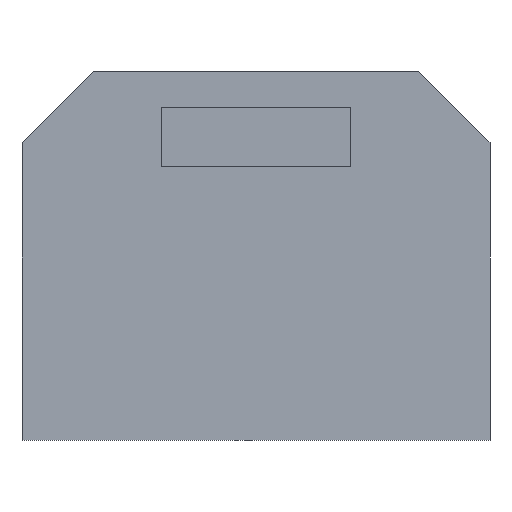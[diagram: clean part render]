
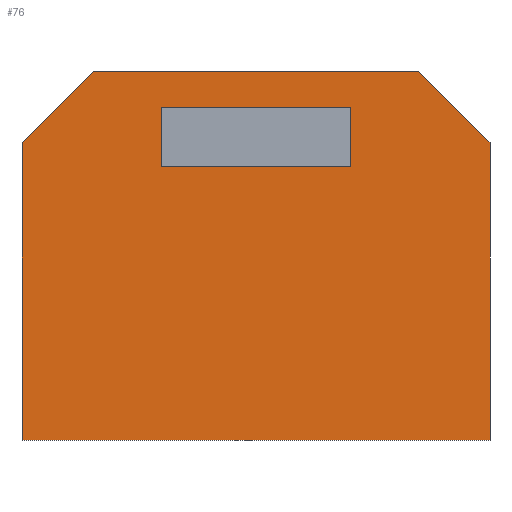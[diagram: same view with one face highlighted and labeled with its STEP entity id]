
A CAD part, left-side view. The second image highlights one B-rep face of the part: STEP entity #76.
In plain terms, the highlighted planar face has unit normal (-1, 0, 0).
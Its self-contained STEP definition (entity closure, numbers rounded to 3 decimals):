
#76 = ADVANCED_FACE('',(#77,#180),#91,.F.);
#77 = FACE_BOUND('',#78,.T.);
#78 = EDGE_LOOP('',(#79,#102,#118,#134,#150,#166));
#79 = ORIENTED_EDGE('',*,*,#80,.F.);
#80 = EDGE_CURVE('',#81,#83,#85,.T.);
#81 = VERTEX_POINT('',#82);
#82 = CARTESIAN_POINT('',(0.,33.5,31.1));
#83 = VERTEX_POINT('',#84);
#84 = CARTESIAN_POINT('',(0.,6.,31.1));
#85 = SURFACE_CURVE('',#86,(#90),.PCURVE_S1.);
#86 = LINE('',#87,#88);
#87 = CARTESIAN_POINT('',(0.,39.5,31.1));
#88 = VECTOR('',#89,1.);
#89 = DIRECTION('',(0.,-1.,0.));
#90 = PCURVE('',#91,#96);
#91 = PLANE('',#92);
#92 = AXIS2_PLACEMENT_3D('',#93,#94,#95);
#93 = CARTESIAN_POINT('',(0.,0.,0.));
#94 = DIRECTION('',(1.,0.,0.));
#95 = DIRECTION('',(0.,0.,-1.));
#96 = DEFINITIONAL_REPRESENTATION('',(#97),#101);
#97 = LINE('',#98,#99);
#98 = CARTESIAN_POINT('',(-31.1,39.5));
#99 = VECTOR('',#100,1.);
#100 = DIRECTION('',(0.,-1.));
#101 = ( GEOMETRIC_REPRESENTATION_CONTEXT(2) 
PARAMETRIC_REPRESENTATION_CONTEXT() REPRESENTATION_CONTEXT('2D SPACE',''
  ) );
#102 = ORIENTED_EDGE('',*,*,#103,.T.);
#103 = EDGE_CURVE('',#81,#104,#106,.T.);
#104 = VERTEX_POINT('',#105);
#105 = CARTESIAN_POINT('',(0.,39.5,25.1));
#106 = SURFACE_CURVE('',#107,(#111),.PCURVE_S1.);
#107 = LINE('',#108,#109);
#108 = CARTESIAN_POINT('',(0.,39.5,25.1));
#109 = VECTOR('',#110,1.);
#110 = DIRECTION('',(0.,0.707,-0.707));
#111 = PCURVE('',#91,#112);
#112 = DEFINITIONAL_REPRESENTATION('',(#113),#117);
#113 = LINE('',#114,#115);
#114 = CARTESIAN_POINT('',(-25.1,39.5));
#115 = VECTOR('',#116,1.);
#116 = DIRECTION('',(0.707,0.707));
#117 = ( GEOMETRIC_REPRESENTATION_CONTEXT(2) 
PARAMETRIC_REPRESENTATION_CONTEXT() REPRESENTATION_CONTEXT('2D SPACE',''
  ) );
#118 = ORIENTED_EDGE('',*,*,#119,.F.);
#119 = EDGE_CURVE('',#120,#104,#122,.T.);
#120 = VERTEX_POINT('',#121);
#121 = CARTESIAN_POINT('',(0.,39.5,0.));
#122 = SURFACE_CURVE('',#123,(#127),.PCURVE_S1.);
#123 = LINE('',#124,#125);
#124 = CARTESIAN_POINT('',(0.,39.5,0.));
#125 = VECTOR('',#126,1.);
#126 = DIRECTION('',(0.,0.,1.));
#127 = PCURVE('',#91,#128);
#128 = DEFINITIONAL_REPRESENTATION('',(#129),#133);
#129 = LINE('',#130,#131);
#130 = CARTESIAN_POINT('',(0.,39.5));
#131 = VECTOR('',#132,1.);
#132 = DIRECTION('',(-1.,0.));
#133 = ( GEOMETRIC_REPRESENTATION_CONTEXT(2) 
PARAMETRIC_REPRESENTATION_CONTEXT() REPRESENTATION_CONTEXT('2D SPACE',''
  ) );
#134 = ORIENTED_EDGE('',*,*,#135,.F.);
#135 = EDGE_CURVE('',#136,#120,#138,.T.);
#136 = VERTEX_POINT('',#137);
#137 = CARTESIAN_POINT('',(0.,0.,0.));
#138 = SURFACE_CURVE('',#139,(#143),.PCURVE_S1.);
#139 = LINE('',#140,#141);
#140 = CARTESIAN_POINT('',(0.,0.,0.));
#141 = VECTOR('',#142,1.);
#142 = DIRECTION('',(0.,1.,0.));
#143 = PCURVE('',#91,#144);
#144 = DEFINITIONAL_REPRESENTATION('',(#145),#149);
#145 = LINE('',#146,#147);
#146 = CARTESIAN_POINT('',(0.,0.));
#147 = VECTOR('',#148,1.);
#148 = DIRECTION('',(0.,1.));
#149 = ( GEOMETRIC_REPRESENTATION_CONTEXT(2) 
PARAMETRIC_REPRESENTATION_CONTEXT() REPRESENTATION_CONTEXT('2D SPACE',''
  ) );
#150 = ORIENTED_EDGE('',*,*,#151,.F.);
#151 = EDGE_CURVE('',#152,#136,#154,.T.);
#152 = VERTEX_POINT('',#153);
#153 = CARTESIAN_POINT('',(0.,0.,25.1));
#154 = SURFACE_CURVE('',#155,(#159),.PCURVE_S1.);
#155 = LINE('',#156,#157);
#156 = CARTESIAN_POINT('',(0.,0.,31.1));
#157 = VECTOR('',#158,1.);
#158 = DIRECTION('',(0.,0.,-1.));
#159 = PCURVE('',#91,#160);
#160 = DEFINITIONAL_REPRESENTATION('',(#161),#165);
#161 = LINE('',#162,#163);
#162 = CARTESIAN_POINT('',(-31.1,0.));
#163 = VECTOR('',#164,1.);
#164 = DIRECTION('',(1.,0.));
#165 = ( GEOMETRIC_REPRESENTATION_CONTEXT(2) 
PARAMETRIC_REPRESENTATION_CONTEXT() REPRESENTATION_CONTEXT('2D SPACE',''
  ) );
#166 = ORIENTED_EDGE('',*,*,#167,.T.);
#167 = EDGE_CURVE('',#152,#83,#168,.T.);
#168 = SURFACE_CURVE('',#169,(#173),.PCURVE_S1.);
#169 = LINE('',#170,#171);
#170 = CARTESIAN_POINT('',(0.,6.,31.1));
#171 = VECTOR('',#172,1.);
#172 = DIRECTION('',(0.,0.707,0.707));
#173 = PCURVE('',#91,#174);
#174 = DEFINITIONAL_REPRESENTATION('',(#175),#179);
#175 = LINE('',#176,#177);
#176 = CARTESIAN_POINT('',(-31.1,6.));
#177 = VECTOR('',#178,1.);
#178 = DIRECTION('',(-0.707,0.707));
#179 = ( GEOMETRIC_REPRESENTATION_CONTEXT(2) 
PARAMETRIC_REPRESENTATION_CONTEXT() REPRESENTATION_CONTEXT('2D SPACE',''
  ) );
#180 = FACE_BOUND('',#181,.T.);
#181 = EDGE_LOOP('',(#182,#200,#216,#232));
#182 = ORIENTED_EDGE('',*,*,#183,.T.);
#183 = EDGE_CURVE('',#184,#186,#188,.T.);
#184 = VERTEX_POINT('',#185);
#185 = CARTESIAN_POINT('',(0.,27.75,28.1));
#186 = VERTEX_POINT('',#187);
#187 = CARTESIAN_POINT('',(0.,11.75,28.1));
#188 = SURFACE_CURVE('',#189,(#193),.PCURVE_S1.);
#189 = LINE('',#190,#191);
#190 = CARTESIAN_POINT('',(0.,27.75,28.1));
#191 = VECTOR('',#192,1.);
#192 = DIRECTION('',(0.,-1.,0.));
#193 = PCURVE('',#91,#194);
#194 = DEFINITIONAL_REPRESENTATION('',(#195),#199);
#195 = LINE('',#196,#197);
#196 = CARTESIAN_POINT('',(-28.1,27.75));
#197 = VECTOR('',#198,1.);
#198 = DIRECTION('',(0.,-1.));
#199 = ( GEOMETRIC_REPRESENTATION_CONTEXT(2) 
PARAMETRIC_REPRESENTATION_CONTEXT() REPRESENTATION_CONTEXT('2D SPACE',''
  ) );
#200 = ORIENTED_EDGE('',*,*,#201,.T.);
#201 = EDGE_CURVE('',#186,#202,#204,.T.);
#202 = VERTEX_POINT('',#203);
#203 = CARTESIAN_POINT('',(0.,11.75,23.1));
#204 = SURFACE_CURVE('',#205,(#209),.PCURVE_S1.);
#205 = LINE('',#206,#207);
#206 = CARTESIAN_POINT('',(0.,11.75,28.1));
#207 = VECTOR('',#208,1.);
#208 = DIRECTION('',(0.,0.,-1.));
#209 = PCURVE('',#91,#210);
#210 = DEFINITIONAL_REPRESENTATION('',(#211),#215);
#211 = LINE('',#212,#213);
#212 = CARTESIAN_POINT('',(-28.1,11.75));
#213 = VECTOR('',#214,1.);
#214 = DIRECTION('',(1.,0.));
#215 = ( GEOMETRIC_REPRESENTATION_CONTEXT(2) 
PARAMETRIC_REPRESENTATION_CONTEXT() REPRESENTATION_CONTEXT('2D SPACE',''
  ) );
#216 = ORIENTED_EDGE('',*,*,#217,.T.);
#217 = EDGE_CURVE('',#202,#218,#220,.T.);
#218 = VERTEX_POINT('',#219);
#219 = CARTESIAN_POINT('',(0.,27.75,23.1));
#220 = SURFACE_CURVE('',#221,(#225),.PCURVE_S1.);
#221 = LINE('',#222,#223);
#222 = CARTESIAN_POINT('',(0.,19.75,23.1));
#223 = VECTOR('',#224,1.);
#224 = DIRECTION('',(0.,1.,0.));
#225 = PCURVE('',#91,#226);
#226 = DEFINITIONAL_REPRESENTATION('',(#227),#231);
#227 = LINE('',#228,#229);
#228 = CARTESIAN_POINT('',(-23.1,19.75));
#229 = VECTOR('',#230,1.);
#230 = DIRECTION('',(0.,1.));
#231 = ( GEOMETRIC_REPRESENTATION_CONTEXT(2) 
PARAMETRIC_REPRESENTATION_CONTEXT() REPRESENTATION_CONTEXT('2D SPACE',''
  ) );
#232 = ORIENTED_EDGE('',*,*,#233,.T.);
#233 = EDGE_CURVE('',#218,#184,#234,.T.);
#234 = SURFACE_CURVE('',#235,(#239),.PCURVE_S1.);
#235 = LINE('',#236,#237);
#236 = CARTESIAN_POINT('',(0.,27.75,23.1));
#237 = VECTOR('',#238,1.);
#238 = DIRECTION('',(0.,0.,1.));
#239 = PCURVE('',#91,#240);
#240 = DEFINITIONAL_REPRESENTATION('',(#241),#245);
#241 = LINE('',#242,#243);
#242 = CARTESIAN_POINT('',(-23.1,27.75));
#243 = VECTOR('',#244,1.);
#244 = DIRECTION('',(-1.,0.));
#245 = ( GEOMETRIC_REPRESENTATION_CONTEXT(2) 
PARAMETRIC_REPRESENTATION_CONTEXT() REPRESENTATION_CONTEXT('2D SPACE',''
  ) );
